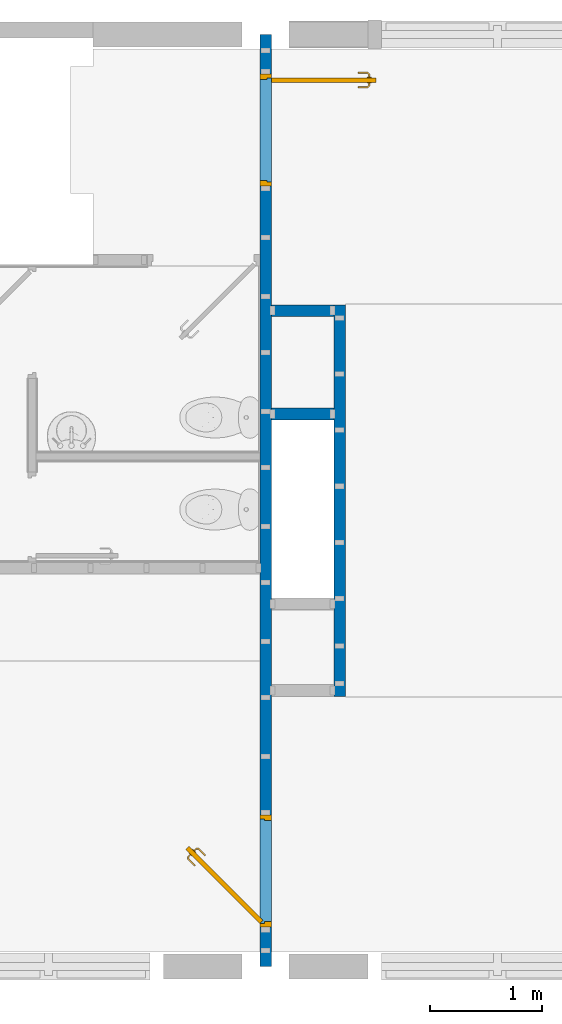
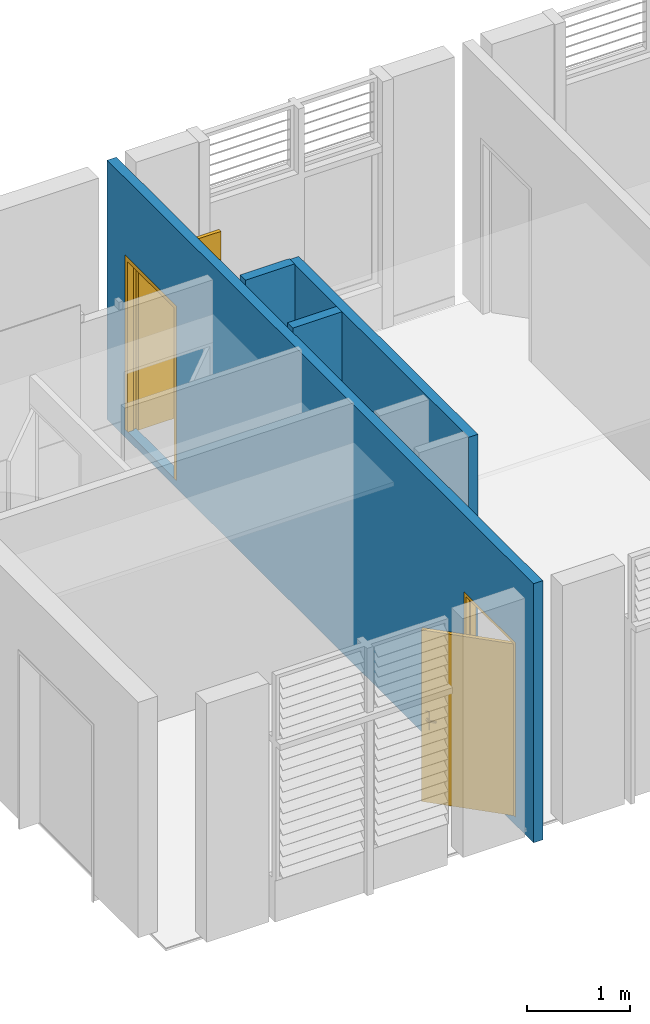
# One storey, part 5 of 15: 4 walls, 2 doors, 3 openings.
"""IFC2X3 building model written with IfcOpenShell, lengths in metres."""

from ifc_helpers import new_model, entity, si_unit, converted_unit, derived_unit, direction, frame, frame_2d, origin, place, context, subcontext, project, spatial, rectangle, extrude, faceted_brep, source, transform, mapped, material, layer, layer_set, layer_usage, type_object, type_shapes, element, fill, save


model = new_model("IFC2X3")

# Units and contexts
model_context = context("Model", 3, precision=1e-05, world=origin(), true_north=direction((6.12303176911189e-17, 1.0)))
body_context = subcontext(model_context, "Body", "Model", "MODEL_VIEW")
ifc_project = project(units=[si_unit("LENGTHUNIT", "METRE"), si_unit("AREAUNIT", "SQUARE_METRE"), si_unit("VOLUMEUNIT", "CUBIC_METRE"), converted_unit("PLANEANGLEUNIT", "DEGREE", entity("IfcRatioMeasure", 0.0174532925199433), si_unit("PLANEANGLEUNIT", "RADIAN"), dimensions=[0, 0, 0, 0, 0, 0, 0]), si_unit("MASSUNIT", "GRAM", prefix="KILO"), derived_unit("MASSDENSITYUNIT", [(si_unit("MASSUNIT", "GRAM", prefix="KILO"), 1), (si_unit("LENGTHUNIT", "METRE"), -3)]), si_unit("TIMEUNIT", "SECOND"), si_unit("FREQUENCYUNIT", "HERTZ"), si_unit("THERMODYNAMICTEMPERATUREUNIT", "DEGREE_CELSIUS"), derived_unit("THERMALTRANSMITTANCEUNIT", [(si_unit("MASSUNIT", "GRAM", prefix="KILO"), 1), (si_unit("THERMODYNAMICTEMPERATUREUNIT", "KELVIN"), -1), (si_unit("TIMEUNIT", "SECOND"), -3)]), derived_unit("VOLUMETRICFLOWRATEUNIT", [(si_unit("LENGTHUNIT", "METRE"), 3), (si_unit("TIMEUNIT", "SECOND"), -1)]), si_unit("ELECTRICCURRENTUNIT", "AMPERE"), si_unit("ELECTRICVOLTAGEUNIT", "VOLT"), si_unit("POWERUNIT", "WATT"), si_unit("FORCEUNIT", "NEWTON", prefix="KILO"), si_unit("ILLUMINANCEUNIT", "LUX"), si_unit("LUMINOUSFLUXUNIT", "LUMEN"), si_unit("LUMINOUSINTENSITYUNIT", "CANDELA"), derived_unit("USERDEFINED", [(si_unit("MASSUNIT", "GRAM", prefix="KILO"), -1), (si_unit("LENGTHUNIT", "METRE"), -2), (si_unit("TIMEUNIT", "SECOND"), 3), (si_unit("LUMINOUSFLUXUNIT", "LUMEN"), 1)]), derived_unit("LINEARVELOCITYUNIT", [(si_unit("LENGTHUNIT", "METRE"), 1), (si_unit("TIMEUNIT", "SECOND"), -1)]), si_unit("PRESSUREUNIT", "PASCAL"), derived_unit("USERDEFINED", [(si_unit("LENGTHUNIT", "METRE"), -2), (si_unit("MASSUNIT", "GRAM", prefix="KILO"), 1), (si_unit("TIMEUNIT", "SECOND"), -2)])], contexts=[model_context])

# Site, building, storey
site_placement = place(None, origin())
site = spatial("IfcSite", under=ifc_project, at=site_placement, Name="Surface", CompositionType="ELEMENT")
building_placement = place(site_placement, origin())
building = spatial("IfcBuilding", under=site, at=building_placement, Name="ExPREF", CompositionType="ELEMENT")
storey_placement = place(building_placement, frame((0.0, 0.0, 7.83)))
storey = spatial("IfcBuildingStorey", under=building, at=storey_placement, Name="R+2", CompositionType="ELEMENT", Elevation=7.83)

# Wall, openings, doors
ifc_material_1 = material(Name="AA-peinture blanc satiné")
ifc_layer_1 = layer(ifc_material_1, 0.0125)
ifc_material_2 = material(Name="AA-isolant plancher")
ifc_layer_2 = layer(ifc_material_2, 0.08)
ifc_layer_3 = layer(ifc_material_1, 0.0125)
ifc_layer_set = layer_set([ifc_layer_1, ifc_layer_2, ifc_layer_3], Name="Mur de base:A-cloison FC 10.5 cm")
ifc_layer_usage_1 = layer_usage(ifc_layer_set, "AXIS2", "NEGATIVE", 0.0525)
wall_type = type_object("IfcWallType", Name="Mur de base:A-cloison FC 10.5 cm", PredefinedType="STANDARD", material=ifc_layer_set)
wall_1_placement = place(storey_placement, frame((49.4897436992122, -185.056488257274, -0.0900000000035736), z_axis=(0.0, 0.0, 1.0), x_axis=(0.0, -1.0, 0.0)))
wall_1 = element("IfcWallStandardCase", 1, at=wall_1_placement, inside=storey, type_object=wall_type, material=ifc_layer_usage_1, Name="Mur de base:A-cloison FC 10.5 cm", ObjectType="Mur de base:A-cloison FC 10.5 cm", context=body_context, shape_type="SweptSolid", body=[
    extrude(rectangle(XDim=8.30316304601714, YDim=0.104999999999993, at=frame_2d((4.15158152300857, 0.0), x_axis=(-1.0, 0.0))), origin(), (0.0, 0.0, 1.0), 3.08000000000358),
])
opening_1_placement = place(wall_1_placement, frame((2.06249999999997, -1.05249999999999, 0.090000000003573)))
element("IfcOpeningElement", 2, at=opening_1_placement, cuts=wall_1, Name="Mur de base:A-cloison FC 10.5 cm", ObjectType="Opening", context=body_context, shape_type="SweptSolid", body=[
    extrude(rectangle(XDim=2.075, YDim=0.104999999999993, at=frame_2d((0.0, 5.55111512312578e-16), x_axis=(0.0, 1.0))), frame((-0.0524999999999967, 0.0, 1.0375), z_axis=(0.0, 1.0, 0.0), x_axis=(-1.0, 0.0, 0.0)), (0.0, 0.0, 1.0), 0.999999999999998),
])
opening_2_placement = place(wall_1_placement, frame((7.95316304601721, 0.0525000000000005, 0.0900000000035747)))
opening_2 = element("IfcOpeningElement", 3, at=opening_2_placement, cuts=wall_1, Name="Porte intérieur bois:PP (0.93m x 2.04m):1", ObjectType="Opening", context=body_context, shape_type="SweptSolid", body=[
    extrude(rectangle(XDim=2.075, YDim=0.999999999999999, at=frame_2d((1.0375, 0.5), x_axis=(1.0, 0.0))), frame((0.0, 0.0, 0.0), z_axis=(0.0, -1.0, 0.0), x_axis=(0.0, 0.0, 1.0)), (0.0, 0.0, 1.0), 0.105),
])
opening_3_placement = place(wall_1_placement, frame((0.349999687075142, -0.0525000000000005, 0.0900000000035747)))
opening_3 = element("IfcOpeningElement", 4, at=opening_3_placement, cuts=wall_1, Name="Porte intérieur bois:PP (0.93m x 2.04m):1", ObjectType="Opening", context=body_context, shape_type="SweptSolid", body=[
    extrude(rectangle(XDim=2.075, YDim=1.0, at=frame_2d((1.0375, 0.5), x_axis=(1.0, 0.0))), frame((0.0, 0.0, 0.0), z_axis=(0.0, 1.0, 0.0), x_axis=(0.0, 0.0, 1.0)), (0.0, 0.0, 1.0), 0.105),
])
ifc_material_3 = material(Name="AA-Blanc satiné")
door_style_1 = type_object("IfcDoorStyle", Name="PP (0.93m x 2.04m)", ConstructionType="NOTDEFINED", OperationType="SINGLE_SWING_LEFT", ParameterTakesPrecedence=False, Sizeable=False, material=ifc_material_3)
shared_shape_1 = source(origin(), body_context, "Body", "Brep", [
    faceted_brep([(0.316565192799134, -0.584795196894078, 1.00778044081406), (0.313754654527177, -0.587605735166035, 1.007), (0.31375465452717, -0.587605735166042, 0.992999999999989), (0.316565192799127, -0.584795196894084, 0.99221955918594), (0.319429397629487, -0.581930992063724, 0.992219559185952), (0.32223993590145, -0.579120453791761, 0.993000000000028), (0.322239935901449, -0.579120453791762, 1.007), (0.319429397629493, -0.581930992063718, 1.00778044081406), (0.306340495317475, -0.563221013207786, 0.993000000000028), (0.306340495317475, -0.563221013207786, 1.007), (0.302365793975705, -0.56486738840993, 1.00778044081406), (0.302365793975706, -0.545331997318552, 1.00778044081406), (0.298315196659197, -0.543654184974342, 1.00778044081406), (0.298315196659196, -0.56654520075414, 1.00778044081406), (0.294340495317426, -0.568191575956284, 1.007), (0.294340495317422, -0.568191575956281, 0.992999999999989), (0.298315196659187, -0.566545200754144, 0.99221955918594), (0.298315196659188, -0.543654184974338, 0.99221955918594), (0.302365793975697, -0.545331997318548, 0.992219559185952), (0.302365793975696, -0.564867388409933, 0.992219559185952), (0.306340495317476, -0.546978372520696, 0.993000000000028), (0.306340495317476, -0.546978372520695, 1.007), (0.294340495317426, -0.542007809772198, 1.007), (0.294340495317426, -0.542007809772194, 0.992999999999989), (0.36471958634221, -0.488599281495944, 0.993000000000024), (0.361909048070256, -0.485788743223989, 0.992219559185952), (0.359044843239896, -0.48292453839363, 0.99221955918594), (0.356234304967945, -0.480114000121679, 0.992999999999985), (0.356234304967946, -0.480114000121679, 1.007), (0.359044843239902, -0.482924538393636, 1.00778044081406), (0.361909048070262, -0.485788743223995, 1.00778044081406), (0.364719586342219, -0.488599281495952, 1.007), (0.335530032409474, -0.517788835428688, 0.993000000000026), (0.335530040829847, -0.517788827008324, 1.007), (0.330705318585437, -0.51412826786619, 1.0078786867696), (0.322575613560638, -0.513772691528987, 1.007), (0.322575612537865, -0.513772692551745, 0.992999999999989), (0.330705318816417, -0.514128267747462, 0.992121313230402)], [[[0, 1, 2, 3, 4, 5, 6, 7]], [[6, 5, 8, 9]], [[9, 10, 7, 6]], [[10, 11, 12, 13, 0, 7]], [[13, 14, 1, 0]], [[2, 1, 14, 15]], [[15, 16, 3, 2]], [[16, 17, 18, 19, 4, 3]], [[19, 8, 5, 4]], [[9, 8, 20, 21]], [[21, 11, 10, 9]], [[12, 22, 14, 13]], [[15, 14, 22, 23]], [[23, 17, 16, 15]], [[18, 20, 8, 19]], [[24, 25, 26, 27, 28, 29, 30, 31]], [[21, 20, 32, 24, 31, 33]], [[33, 30, 34]], [[35, 34, 29]], [[21, 33, 11]], [[33, 31, 30]], [[28, 35, 29]], [[22, 12, 35]], [[35, 12, 34]], [[12, 11, 34]], [[11, 33, 34]], [[29, 34, 30]], [[22, 35, 28, 27, 36, 23]], [[36, 26, 37]], [[27, 26, 36]], [[17, 23, 36]], [[37, 32, 18]], [[20, 18, 32]], [[32, 25, 24]], [[26, 25, 37]], [[25, 32, 37]], [[17, 36, 37]], [[17, 37, 18]]]),
    faceted_brep([(0.351920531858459, -0.620150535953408, 1.00778044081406), (0.354784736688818, -0.617286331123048, 1.00778044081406), (0.357595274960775, -0.614475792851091, 1.00699999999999), (0.357595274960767, -0.614475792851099, 0.993000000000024), (0.354784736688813, -0.617286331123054, 0.992219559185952), (0.351920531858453, -0.620150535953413, 0.99221955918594), (0.349109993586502, -0.622961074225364, 0.992999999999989), (0.349109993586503, -0.622961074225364, 1.007), (0.368662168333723, -0.642513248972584, 1.007), (0.370308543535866, -0.638538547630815, 1.00778044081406), (0.3930050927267, -0.638538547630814, 1.00778044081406), (0.391327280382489, -0.634487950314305, 1.00778044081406), (0.371986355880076, -0.634487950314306, 1.00778044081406), (0.373632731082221, -0.630513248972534, 1.007), (0.373632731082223, -0.630513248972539, 0.993000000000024), (0.371986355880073, -0.634487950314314, 0.992219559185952), (0.391327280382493, -0.634487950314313, 0.992219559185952), (0.393005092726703, -0.638538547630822, 0.99221955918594), (0.370308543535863, -0.638538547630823, 0.99221955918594), (0.368662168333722, -0.642513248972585, 0.992999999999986), (0.394651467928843, -0.642513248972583, 1.007), (0.389680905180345, -0.630513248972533, 1.007), (0.38968090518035, -0.630513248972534, 0.993000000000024), (0.394651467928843, -0.642513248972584, 0.992999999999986), (0.456623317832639, -0.580541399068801, 0.992999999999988), (0.453812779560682, -0.577730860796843, 0.99221955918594), (0.450948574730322, -0.574866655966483, 0.992219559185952), (0.448138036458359, -0.57205611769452, 0.993000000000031), (0.44813803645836, -0.572056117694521, 1.007), (0.450948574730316, -0.574866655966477, 1.00778044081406), (0.453812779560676, -0.577730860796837, 1.00778044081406), (0.456623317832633, -0.580541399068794, 1.00699999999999), (0.422886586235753, -0.614278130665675, 1.007), (0.422570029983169, -0.606109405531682, 1.0078786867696), (0.418909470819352, -0.601284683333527, 1.007), (0.418909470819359, -0.601284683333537, 0.993000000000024), (0.422570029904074, -0.606109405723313, 0.992121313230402), (0.422886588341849, -0.614278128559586, 0.992999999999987)], [[[0, 1, 2, 3, 4, 5, 6, 7]], [[8, 9, 0, 7]], [[9, 10, 11, 12, 1, 0]], [[12, 13, 2, 1]], [[3, 2, 13, 14]], [[14, 15, 4, 3]], [[15, 16, 17, 18, 5, 4]], [[18, 19, 6, 5]], [[7, 6, 19, 8]], [[20, 10, 9, 8]], [[11, 21, 13, 12]], [[14, 13, 21, 22]], [[22, 16, 15, 14]], [[17, 23, 19, 18]], [[8, 19, 23, 20]], [[24, 25, 26, 27, 28, 29, 30, 31]], [[32, 30, 33]], [[31, 30, 32]], [[10, 20, 32]], [[33, 34, 11]], [[21, 11, 34]], [[34, 29, 28]], [[30, 29, 33]], [[29, 34, 33]], [[10, 32, 33]], [[10, 33, 11]], [[22, 21, 34, 28, 27, 35]], [[35, 26, 36]], [[37, 36, 25]], [[22, 35, 16]], [[35, 27, 26]], [[24, 37, 25]], [[23, 17, 37]], [[37, 17, 36]], [[17, 16, 36]], [[16, 35, 36]], [[25, 36, 26]], [[20, 23, 37, 24, 31, 32]]]),
    faceted_brep([(0.328853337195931, -0.579578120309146, 0.866003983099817), (0.335674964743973, -0.572756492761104, 0.870000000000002), (0.335674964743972, -0.572756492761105, 1.08), (0.32885333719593, -0.579578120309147, 1.08399601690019), (0.321532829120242, -0.586898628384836, 1.08535898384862), (0.314212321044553, -0.594219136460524, 1.08399601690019), (0.307390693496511, -0.601040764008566, 1.08), (0.307390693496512, -0.601040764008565, 0.870000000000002), (0.314212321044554, -0.594219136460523, 0.866003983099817), (0.321532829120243, -0.586898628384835, 0.86464101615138), (0.325317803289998, -0.576042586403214, 1.08399601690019), (0.33213943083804, -0.569220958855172, 1.08), (0.332139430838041, -0.569220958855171, 0.870000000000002), (0.325317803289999, -0.576042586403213, 0.866003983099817), (0.31799729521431, -0.583363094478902, 0.86464101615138), (0.310676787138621, -0.59068360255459, 0.866003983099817), (0.303855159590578, -0.597505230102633, 0.870000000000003), (0.303855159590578, -0.597505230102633, 1.08), (0.31067678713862, -0.590683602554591, 1.08399601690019), (0.317997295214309, -0.583363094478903, 1.08535898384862)], [[[0, 1, 2, 3, 4, 5, 6, 7, 8, 9]], [[10, 11, 12, 13, 14, 15, 16, 17, 18, 19]], [[11, 10, 3, 2]], [[3, 10, 19, 4]], [[19, 18, 5, 4]], [[18, 17, 6, 5]], [[7, 6, 17, 16]], [[16, 15, 8, 7]], [[8, 15, 14, 9]], [[14, 13, 0, 9]], [[13, 12, 1, 0]], [[2, 1, 12, 11]]]),
    faceted_brep([(0.360673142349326, -0.61139792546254, 0.866003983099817), (0.367494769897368, -0.604576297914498, 0.870000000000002), (0.367494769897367, -0.604576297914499, 1.08), (0.360673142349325, -0.611397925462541, 1.08399601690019), (0.353352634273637, -0.61871843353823, 1.08535898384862), (0.346032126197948, -0.626038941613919, 1.08399601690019), (0.339210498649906, -0.632860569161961, 1.08), (0.339210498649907, -0.63286056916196, 0.870000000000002), (0.346032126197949, -0.626038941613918, 0.866003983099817), (0.353352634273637, -0.618718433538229, 0.86464101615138), (0.357137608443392, -0.607862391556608, 1.08399601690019), (0.363959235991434, -0.601040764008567, 1.08), (0.363959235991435, -0.601040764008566, 0.870000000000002), (0.357137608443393, -0.607862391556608, 0.866003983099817), (0.349817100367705, -0.615182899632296, 0.86464101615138), (0.342496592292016, -0.622503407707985, 0.866003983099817), (0.335674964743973, -0.629325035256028, 0.870000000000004), (0.335674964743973, -0.629325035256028, 1.08), (0.342496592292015, -0.622503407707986, 1.08399601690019), (0.349817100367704, -0.615182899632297, 1.08535898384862)], [[[0, 1, 2, 3, 4, 5, 6, 7, 8, 9]], [[10, 11, 12, 13, 14, 15, 16, 17, 18, 19]], [[16, 15, 8, 7]], [[8, 15, 14, 9]], [[14, 13, 0, 9]], [[13, 12, 1, 0]], [[2, 1, 12, 11]], [[11, 10, 3, 2]], [[3, 10, 19, 4]], [[19, 18, 5, 4]], [[18, 17, 6, 5]], [[7, 6, 17, 16]]]),
    faceted_brep([(0.279106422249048, -0.629325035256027, 2.04), (0.936715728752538, 0.0282842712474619, 2.04), (0.936715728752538, 0.0282842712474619, 0.0), (0.279106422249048, -0.629325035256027, 0.0), (0.30739069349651, -0.657609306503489, 2.04), (0.30739069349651, -0.657609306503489, 0.0), (0.965, 0.0, 0.0), (0.965, 0.0, 2.04)], [[[0, 1, 2, 3]], [[4, 5, 6, 7]], [[1, 0, 4, 7]], [[2, 1, 7, 6]], [[3, 2, 6, 5]], [[0, 3, 5, 4]]]),
    faceted_brep([(0.0, 0.0, 0.0), (0.0, 0.105000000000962, 0.0), (0.0499999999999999, 0.105000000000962, 0.0), (0.0499999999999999, 0.0400000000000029, 0.0), (0.0349999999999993, 0.0400000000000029, 0.0), (0.0349999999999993, 0.0, 0.0), (0.0, 0.0, 2.07500000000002), (0.0, 0.105000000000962, 2.07500000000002), (1.0, 0.105000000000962, 2.07500000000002), (1.0, 0.105000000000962, 0.0), (0.95, 0.105000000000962, 0.0), (0.95, 0.105000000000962, 2.025), (0.0500000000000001, 0.105000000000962, 2.025), (0.05, 0.0400000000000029, 2.025), (0.95, 0.0400000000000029, 2.025), (0.95, 0.0400000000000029, 0.0), (0.965, 0.0400000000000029, 0.0), (0.965, 0.0400000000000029, 2.04), (0.0349999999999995, 0.0400000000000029, 2.04), (0.0349999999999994, 0.0, 2.04), (0.965, 0.0, 2.04), (0.965, 0.0, 0.0), (1.0, 0.0, 0.0), (1.0, 0.0, 2.07500000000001)], [[[0, 1, 2, 3, 4, 5]], [[1, 0, 6, 7]], [[2, 1, 7, 8, 9, 10, 11, 12]], [[3, 2, 12, 13]], [[4, 3, 13, 14, 15, 16, 17, 18]], [[5, 4, 18, 19]], [[0, 5, 19, 20, 21, 22, 23, 6]], [[8, 23, 22, 9]], [[22, 21, 16, 15, 10, 9]], [[14, 11, 10, 15]], [[20, 17, 16, 21]], [[7, 6, 23, 8]], [[13, 12, 11, 14]], [[19, 18, 17, 20]]]),
])
type_shapes(door_style_1, [shared_shape_1])
door_1_placement = place(opening_2_placement, frame((-1.0, -0.105000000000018, 0.0)))
door_1 = element("IfcDoor", 5, at=door_1_placement, inside=storey, type_object=door_style_1, material=ifc_material_3, Name="Porte intérieur bois:PP (0.93m x 2.04m)", ObjectType="PP (0.93m x 2.04m)", OverallHeight=2.075, OverallWidth=1.00000000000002, context=body_context, shape_type="MappedRepresentation", body=[
    mapped(shared_shape_1, transform((0.0, 0.0, 0.0), scale=1.0)),
])
fill(opening_2, door_1)
door_style_2 = type_object("IfcDoorStyle", Name="PP (0.93m x 2.04m)", ConstructionType="NOTDEFINED", OperationType="SINGLE_SWING_LEFT", ParameterTakesPrecedence=False, Sizeable=False, material=ifc_material_3)
shared_shape_2 = source(origin(), body_context, "Body", "Brep", [
    faceted_brep([(0.919999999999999, -0.872025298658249, 1.00778044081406), (0.919999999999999, -0.876000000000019, 1.007), (0.919999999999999, -0.876000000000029, 0.992999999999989), (0.919999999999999, -0.872025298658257, 0.99221955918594), (0.919999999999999, -0.867974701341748, 0.992219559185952), (0.919999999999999, -0.863999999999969, 0.993000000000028), (0.919999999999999, -0.86399999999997, 1.007), (0.919999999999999, -0.867974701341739, 1.00778044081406), (0.897514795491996, -0.863999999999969, 0.993000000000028), (0.897514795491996, -0.863999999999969, 1.007), (0.895868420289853, -0.867974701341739, 1.00778044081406), (0.882054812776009, -0.854161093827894, 1.00778044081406), (0.8780042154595, -0.855838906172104, 1.00778044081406), (0.894190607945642, -0.872025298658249, 1.00778044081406), (0.892544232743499, -0.876000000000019, 1.007), (0.892544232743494, -0.876000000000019, 0.992999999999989), (0.894190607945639, -0.872025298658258, 0.99221955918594), (0.87800421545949, -0.855838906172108, 0.99221955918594), (0.882054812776, -0.854161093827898, 0.992219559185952), (0.895868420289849, -0.867974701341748, 0.992219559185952), (0.886029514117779, -0.852514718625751, 0.993000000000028), (0.886029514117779, -0.852514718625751, 1.007), (0.87402951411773, -0.857485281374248, 1.007), (0.874029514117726, -0.857485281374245, 0.992999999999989), (0.886029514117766, -0.769954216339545, 0.993000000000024), (0.882054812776, -0.769954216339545, 0.992219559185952), (0.87800421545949, -0.769954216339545, 0.99221955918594), (0.874029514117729, -0.769954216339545, 0.992999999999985), (0.87402951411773, -0.769954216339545, 1.007), (0.878004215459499, -0.769954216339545, 1.00778044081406), (0.882054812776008, -0.769954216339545, 1.00778044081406), (0.886029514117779, -0.769954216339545, 1.007), (0.886029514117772, -0.811234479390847, 0.993000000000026), (0.886029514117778, -0.811234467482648, 1.007), (0.880029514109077, -0.812057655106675, 1.0078786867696), (0.87402951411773, -0.81755479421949, 1.007), (0.874029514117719, -0.8175547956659, 0.992999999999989), (0.880029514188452, -0.812057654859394, 0.992121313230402)], [[[0, 1, 2, 3, 4, 5, 6, 7]], [[6, 5, 8, 9]], [[9, 10, 7, 6]], [[10, 11, 12, 13, 0, 7]], [[13, 14, 1, 0]], [[2, 1, 14, 15]], [[15, 16, 3, 2]], [[16, 17, 18, 19, 4, 3]], [[19, 8, 5, 4]], [[9, 8, 20, 21]], [[21, 11, 10, 9]], [[12, 22, 14, 13]], [[15, 14, 22, 23]], [[23, 17, 16, 15]], [[18, 20, 8, 19]], [[24, 25, 26, 27, 28, 29, 30, 31]], [[21, 20, 32, 24, 31, 33]], [[33, 30, 34]], [[35, 34, 29]], [[21, 33, 11]], [[33, 31, 30]], [[28, 35, 29]], [[22, 12, 35]], [[35, 12, 34]], [[12, 11, 34]], [[11, 33, 34]], [[29, 34, 30]], [[22, 35, 28, 27, 36, 23]], [[36, 26, 37]], [[27, 26, 36]], [[17, 23, 36]], [[37, 32, 18]], [[20, 18, 32]], [[32, 25, 24]], [[26, 25, 37]], [[25, 32, 37]], [[17, 36, 37]], [[17, 37, 18]]]),
    faceted_brep([(0.969999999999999, -0.872025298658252, 1.00778044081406), (0.969999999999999, -0.867974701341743, 1.00778044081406), (0.969999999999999, -0.863999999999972, 1.00699999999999), (0.969999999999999, -0.863999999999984, 0.993000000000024), (0.969999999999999, -0.867974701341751, 0.992219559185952), (0.969999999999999, -0.87202529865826, 0.99221955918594), (0.969999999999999, -0.876000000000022, 0.992999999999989), (0.969999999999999, -0.876000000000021, 1.007), (0.997650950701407, -0.876000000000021, 1.007), (0.996004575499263, -0.872025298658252, 1.00778044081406), (1.01205345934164, -0.855976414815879, 1.00778044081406), (1.00800286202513, -0.854298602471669, 1.00778044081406), (0.994326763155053, -0.867974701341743, 1.00778044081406), (0.992680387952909, -0.863999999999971, 1.007), (0.992680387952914, -0.863999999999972, 0.993000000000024), (0.994326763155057, -0.867974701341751, 0.992219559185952), (1.00800286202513, -0.854298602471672, 0.992219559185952), (1.01205345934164, -0.855976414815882, 0.99221955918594), (0.996004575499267, -0.87202529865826, 0.99221955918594), (0.997650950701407, -0.876000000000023, 0.992999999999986), (1.0160281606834, -0.857622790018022, 1.007), (1.00402816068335, -0.852652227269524, 1.007), (1.00402816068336, -0.852652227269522, 0.993000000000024), (1.01602816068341, -0.857622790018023, 0.992999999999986), (1.01602816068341, -0.769981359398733, 0.992999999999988), (1.01205345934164, -0.769981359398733, 0.99221955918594), (1.00800286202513, -0.769981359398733, 0.992219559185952), (1.00402816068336, -0.769981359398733, 0.993000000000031), (1.00402816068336, -0.769981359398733, 1.007), (1.00800286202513, -0.769981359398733, 1.00778044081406), (1.01205345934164, -0.769981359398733, 1.00778044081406), (1.01602816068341, -0.769981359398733, 1.00699999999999), (1.01602816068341, -0.817692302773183, 1.007), (1.01002816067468, -0.812139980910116, 1.0078786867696), (1.00402816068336, -0.811316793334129, 1.007), (1.00402816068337, -0.811316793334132, 0.993000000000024), (1.01002816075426, -0.812139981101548, 0.992121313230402), (1.01602816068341, -0.817692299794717, 0.992999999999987)], [[[0, 1, 2, 3, 4, 5, 6, 7]], [[8, 9, 0, 7]], [[9, 10, 11, 12, 1, 0]], [[12, 13, 2, 1]], [[3, 2, 13, 14]], [[14, 15, 4, 3]], [[15, 16, 17, 18, 5, 4]], [[18, 19, 6, 5]], [[7, 6, 19, 8]], [[20, 10, 9, 8]], [[11, 21, 13, 12]], [[14, 13, 21, 22]], [[22, 16, 15, 14]], [[17, 23, 19, 18]], [[8, 19, 23, 20]], [[24, 25, 26, 27, 28, 29, 30, 31]], [[32, 30, 33]], [[31, 30, 32]], [[10, 20, 32]], [[33, 34, 11]], [[21, 11, 34]], [[34, 29, 28]], [[30, 29, 33]], [[29, 34, 33]], [[10, 32, 33]], [[10, 33, 11]], [[22, 21, 34, 28, 27, 35]], [[35, 26, 36]], [[37, 36, 25]], [[22, 35, 16]], [[35, 27, 26]], [[24, 37, 25]], [[23, 17, 37]], [[37, 17, 36]], [[17, 16, 36]], [[16, 35, 36]], [[25, 36, 26]], [[20, 23, 37, 24, 31, 32]]]),
    faceted_brep([(0.924999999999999, -0.859647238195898, 0.866003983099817), (0.924999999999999, -0.849999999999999, 0.870000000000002), (0.924999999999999, -0.850000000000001, 1.08), (0.924999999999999, -0.8596472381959, 1.08399601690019), (0.924999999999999, -0.870000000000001, 1.08535898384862), (0.924999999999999, -0.880352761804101, 1.08399601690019), (0.924999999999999, -0.89, 1.08), (0.924999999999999, -0.889999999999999, 0.870000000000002), (0.924999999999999, -0.8803527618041, 0.866003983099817), (0.924999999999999, -0.869999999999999, 0.86464101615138), (0.919999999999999, -0.8596472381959, 1.08399601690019), (0.92, -0.850000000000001, 1.08), (0.92, -0.849999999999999, 0.870000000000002), (0.919999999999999, -0.859647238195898, 0.866003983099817), (0.919999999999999, -0.869999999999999, 0.86464101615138), (0.919999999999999, -0.8803527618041, 0.866003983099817), (0.919999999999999, -0.89, 0.870000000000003), (0.919999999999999, -0.89, 1.08), (0.919999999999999, -0.880352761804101, 1.08399601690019), (0.919999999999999, -0.870000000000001, 1.08535898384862)], [[[0, 1, 2, 3, 4, 5, 6, 7, 8, 9]], [[10, 11, 12, 13, 14, 15, 16, 17, 18, 19]], [[11, 10, 3, 2]], [[3, 10, 19, 4]], [[19, 18, 5, 4]], [[18, 17, 6, 5]], [[7, 6, 17, 16]], [[16, 15, 8, 7]], [[8, 15, 14, 9]], [[14, 13, 0, 9]], [[13, 12, 1, 0]], [[2, 1, 12, 11]]]),
    faceted_brep([(0.969999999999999, -0.859647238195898, 0.866003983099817), (0.969999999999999, -0.849999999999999, 0.870000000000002), (0.969999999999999, -0.850000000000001, 1.08), (0.969999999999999, -0.8596472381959, 1.08399601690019), (0.969999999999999, -0.87, 1.08535898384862), (0.969999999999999, -0.880352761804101, 1.08399601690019), (0.969999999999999, -0.89, 1.08), (0.969999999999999, -0.889999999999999, 0.870000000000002), (0.969999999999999, -0.8803527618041, 0.866003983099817), (0.969999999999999, -0.869999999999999, 0.86464101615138), (0.964999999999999, -0.8596472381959, 1.08399601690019), (0.965, -0.850000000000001, 1.08), (0.965, -0.849999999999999, 0.870000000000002), (0.964999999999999, -0.859647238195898, 0.866003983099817), (0.964999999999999, -0.869999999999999, 0.86464101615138), (0.964999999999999, -0.8803527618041, 0.866003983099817), (0.964999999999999, -0.89, 0.870000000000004), (0.964999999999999, -0.89, 1.08), (0.964999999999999, -0.880352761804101, 1.08399601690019), (0.964999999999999, -0.87, 1.08535898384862)], [[[0, 1, 2, 3, 4, 5, 6, 7, 8, 9]], [[10, 11, 12, 13, 14, 15, 16, 17, 18, 19]], [[16, 15, 8, 7]], [[8, 15, 14, 9]], [[14, 13, 0, 9]], [[13, 12, 1, 0]], [[2, 1, 12, 11]], [[11, 10, 3, 2]], [[3, 10, 19, 4]], [[19, 18, 5, 4]], [[18, 17, 6, 5]], [[7, 6, 17, 16]]]),
    faceted_brep([(0.924999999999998, -0.93, 2.04), (0.924999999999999, 0.0, 2.04), (0.924999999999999, 0.0, 0.0), (0.924999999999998, -0.93, 0.0), (0.964999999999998, -0.93, 2.04), (0.964999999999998, -0.93, 0.0), (0.965, 0.0, 0.0), (0.965, 0.0, 2.04)], [[[0, 1, 2, 3]], [[4, 5, 6, 7]], [[1, 0, 4, 7]], [[2, 1, 7, 6]], [[3, 2, 6, 5]], [[0, 3, 5, 4]]]),
    faceted_brep([(0.0, 0.0, 0.0), (0.0, 0.105000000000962, 0.0), (0.0499999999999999, 0.105000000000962, 0.0), (0.0499999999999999, 0.0400000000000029, 0.0), (0.0349999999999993, 0.0400000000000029, 0.0), (0.0349999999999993, 0.0, 0.0), (0.0, 0.0, 2.07500000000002), (0.0, 0.105000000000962, 2.07500000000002), (1.0, 0.105000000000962, 2.07500000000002), (1.0, 0.105000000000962, 0.0), (0.95, 0.105000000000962, 0.0), (0.95, 0.105000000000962, 2.025), (0.0500000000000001, 0.105000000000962, 2.025), (0.05, 0.0400000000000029, 2.025), (0.95, 0.0400000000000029, 2.025), (0.95, 0.0400000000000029, 0.0), (0.965, 0.0400000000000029, 0.0), (0.965, 0.0400000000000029, 2.04), (0.0349999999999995, 0.0400000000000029, 2.04), (0.0349999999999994, 0.0, 2.04), (0.965, 0.0, 2.04), (0.965, 0.0, 0.0), (1.0, 0.0, 0.0), (1.0, 0.0, 2.07500000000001)], [[[0, 1, 2, 3, 4, 5]], [[1, 0, 6, 7]], [[2, 1, 7, 8, 9, 10, 11, 12]], [[3, 2, 12, 13]], [[4, 3, 13, 14, 15, 16, 17, 18]], [[5, 4, 18, 19]], [[0, 5, 19, 20, 21, 22, 23, 6]], [[8, 23, 22, 9]], [[22, 21, 16, 15, 10, 9]], [[14, 11, 10, 15]], [[20, 17, 16, 21]], [[7, 6, 23, 8]], [[13, 12, 11, 14]], [[19, 18, 17, 20]]]),
])
type_shapes(door_style_2, [shared_shape_2])
door_2_placement = place(opening_3_placement, frame((1.0, 0.104999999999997, 0.0), z_axis=(0.0, 0.0, 1.0), x_axis=(-1.0, 0.0, 0.0)))
door_2 = element("IfcDoor", 6, at=door_2_placement, inside=storey, type_object=door_style_2, material=ifc_material_3, Name="Porte intérieur bois:PP (0.93m x 2.04m)", ObjectType="PP (0.93m x 2.04m)", OverallHeight=2.075, OverallWidth=1.00000000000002, context=body_context, shape_type="MappedRepresentation", body=[
    mapped(shared_shape_2, transform((0.0, 0.0, 0.0), scale=1.0)),
])
fill(opening_3, door_2)

# Walls
ifc_layer_usage_2 = layer_usage(ifc_layer_set, "AXIS2", "NEGATIVE", 0.0525)
wall_2_placement = place(storey_placement, frame((50.0972436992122, -188.438069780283, -0.00999999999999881), z_axis=(0.0, 0.0, 1.0), x_axis=(-1.0, 0.0, 0.0)))
element("IfcWallStandardCase", 7, at=wall_2_placement, inside=storey, type_object=wall_type, material=ifc_layer_usage_2, Name="Mur de base:A-cloison FC 10.5 cm", ObjectType="Mur de base:A-cloison FC 10.5 cm", context=body_context, shape_type="SweptSolid", body=[
    extrude(rectangle(XDim=0.555000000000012, YDim=0.104999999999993, at=frame_2d((0.277500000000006, 0.0), x_axis=(-1.0, 0.0))), origin(), (0.0, 0.0, 1.0), 3.05),
])
ifc_layer_usage_3 = layer_usage(ifc_layer_set, "AXIS2", "NEGATIVE", 0.0525)
wall_3_placement = place(storey_placement, frame((49.5422436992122, -187.516069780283, 0.0)))
element("IfcWallStandardCase", 8, at=wall_3_placement, inside=storey, type_object=wall_type, material=ifc_layer_usage_3, Name="Mur de base:A-cloison FC 10.5 cm", ObjectType="Mur de base:A-cloison FC 10.5 cm", context=body_context, shape_type="SweptSolid", body=[
    extrude(rectangle(XDim=0.555000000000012, YDim=0.104999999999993, at=frame_2d((0.277500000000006, 0.0), x_axis=(-1.0, 0.0))), origin(), (0.0, 0.0, 1.0), 3.05),
])
ifc_layer_usage_4 = layer_usage(ifc_layer_set, "AXIS2", "NEGATIVE", 0.0525)
wall_4_placement = place(storey_placement, frame((50.1497436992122, -187.463569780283, -0.0900000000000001), z_axis=(0.0, 0.0, 1.0), x_axis=(0.0, -1.0, 0.0)))
element("IfcWallStandardCase", 9, at=wall_4_placement, inside=storey, type_object=wall_type, material=ifc_layer_usage_4, Name="Mur de base:A-cloison FC 10.5 cm", ObjectType="Mur de base:A-cloison FC 10.5 cm", context=body_context, shape_type="SweptSolid", body=[
    extrude(rectangle(XDim=3.48900000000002, YDim=0.104999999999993, at=frame_2d((1.74450000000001, 0.0), x_axis=(-1.0, 0.0))), origin(), (0.0, 0.0, 1.0), 3.13),
])

save(model, "model.ifc")
